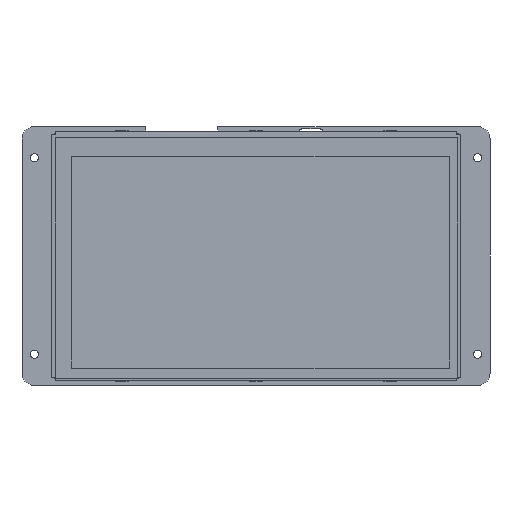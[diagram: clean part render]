
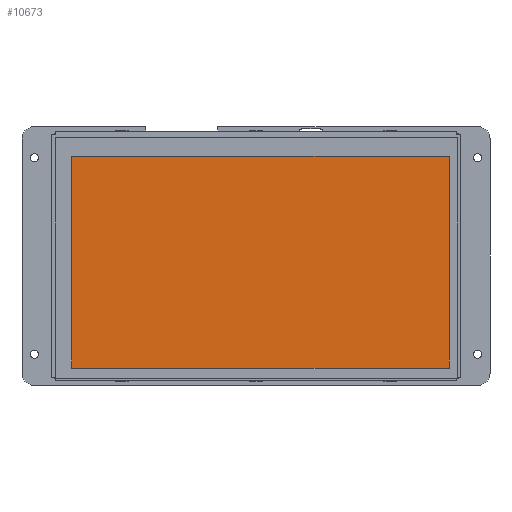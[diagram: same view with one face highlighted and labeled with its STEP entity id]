
A CAD part, front view. The second image highlights one B-rep face of the part: STEP entity #10673.
In plain terms, the highlighted planar face has unit normal (0, -1, 0) as drawn and (0, 1, 0) by its records, which use the part's own axes.
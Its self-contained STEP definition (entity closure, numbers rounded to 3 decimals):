
#10464=DIRECTION('',(0.,0.,1.));
#10465=VECTOR('',#10464,86.18);
#10466=CARTESIAN_POINT('',(-78.38,1.4,-44.77));
#10467=LINE('',#10466,#10465);
#10468=DIRECTION('',(-1.,0.,0.));
#10469=VECTOR('',#10468,153.68);
#10470=CARTESIAN_POINT('',(75.3,1.4,-44.77));
#10471=LINE('',#10470,#10469);
#10472=DIRECTION('',(0.,0.,-1.));
#10473=VECTOR('',#10472,86.18);
#10474=CARTESIAN_POINT('',(75.3,1.4,41.41));
#10475=LINE('',#10474,#10473);
#10476=DIRECTION('',(1.,0.,0.));
#10477=VECTOR('',#10476,153.68);
#10478=CARTESIAN_POINT('',(-78.38,1.4,41.41));
#10479=LINE('',#10478,#10477);
#10496=CARTESIAN_POINT('',(-78.38,1.4,-44.77));
#10497=CARTESIAN_POINT('',(-78.38,1.4,41.41));
#10498=VERTEX_POINT('',#10496);
#10499=VERTEX_POINT('',#10497);
#10500=CARTESIAN_POINT('',(75.3,1.4,41.41));
#10501=VERTEX_POINT('',#10500);
#10502=CARTESIAN_POINT('',(75.3,1.4,-44.77));
#10503=VERTEX_POINT('',#10502);
#10662=CARTESIAN_POINT('',(0.,1.4,0.));
#10663=DIRECTION('',(0.,1.,0.));
#10664=DIRECTION('',(1.,0.,0.));
#10665=AXIS2_PLACEMENT_3D('',#10662,#10663,#10664);
#10666=PLANE('',#10665);
#10667=ORIENTED_EDGE('',*,*,#10614,.F.);
#10668=ORIENTED_EDGE('',*,*,#10629,.F.);
#10669=ORIENTED_EDGE('',*,*,#10643,.F.);
#10670=ORIENTED_EDGE('',*,*,#10656,.F.);
#10671=EDGE_LOOP('',(#10667,#10668,#10669,#10670));
#10672=FACE_OUTER_BOUND('',#10671,.F.);
#10614=EDGE_CURVE('',#10498,#10499,#10467,.T.);
#10629=EDGE_CURVE('',#10503,#10498,#10471,.T.);
#10643=EDGE_CURVE('',#10501,#10503,#10475,.T.);
#10656=EDGE_CURVE('',#10499,#10501,#10479,.T.);
#10673=ADVANCED_FACE('',(#10672),#10666,.T.);
